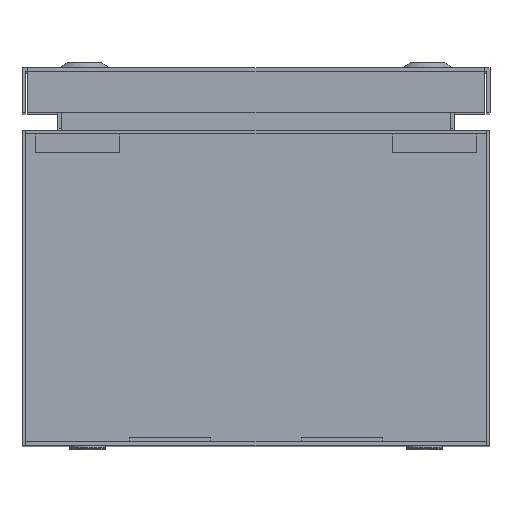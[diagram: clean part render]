
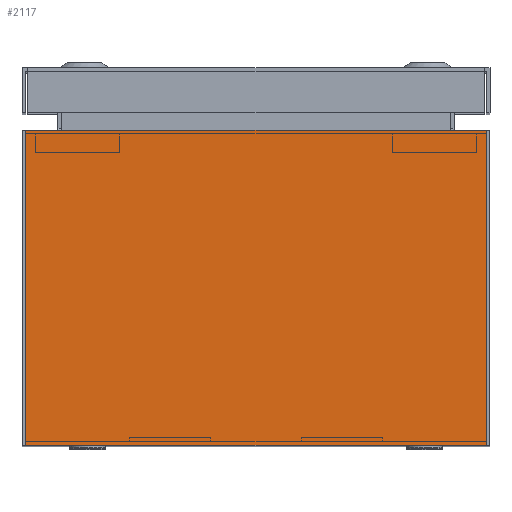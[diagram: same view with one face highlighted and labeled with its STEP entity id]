
A CAD part, top view. The second image highlights one B-rep face of the part: STEP entity #2117.
In plain terms, the highlighted planar face has unit normal (0, 0, 1).
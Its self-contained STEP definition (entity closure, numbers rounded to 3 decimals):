
#404 = VERTEX_POINT('',#405);
#405 = CARTESIAN_POINT('',(73.729,-1.2,150.));
#411 = EDGE_CURVE('',#404,#412,#414,.T.);
#412 = VERTEX_POINT('',#413);
#413 = CARTESIAN_POINT('',(-73.729,-1.2,150.));
#414 = LINE('',#415,#416);
#415 = CARTESIAN_POINT('',(1575.,-1.2,150.));
#416 = VECTOR('',#417,1.);
#417 = DIRECTION('',(-1.,0.,0.));
#1347 = EDGE_CURVE('',#1348,#404,#1350,.T.);
#1348 = VERTEX_POINT('',#1349);
#1349 = CARTESIAN_POINT('',(73.729,99.8,150.));
#1350 = LINE('',#1351,#1352);
#1351 = CARTESIAN_POINT('',(73.729,98.,150.));
#1352 = VECTOR('',#1353,1.);
#1353 = DIRECTION('',(0.,-1.,0.));
#2013 = EDGE_CURVE('',#412,#2014,#2016,.T.);
#2014 = VERTEX_POINT('',#2015);
#2015 = CARTESIAN_POINT('',(-73.729,99.8,150.));
#2016 = LINE('',#2017,#2018);
#2017 = CARTESIAN_POINT('',(-73.729,98.,150.));
#2018 = VECTOR('',#2019,1.);
#2019 = DIRECTION('',(0.,1.,0.));
#2117 = ADVANCED_FACE('',(#2118),#2129,.F.);
#2118 = FACE_BOUND('',#2119,.T.);
#2119 = EDGE_LOOP('',(#2120,#2121,#2122,#2123));
#2120 = ORIENTED_EDGE('',*,*,#2013,.F.);
#2121 = ORIENTED_EDGE('',*,*,#411,.F.);
#2122 = ORIENTED_EDGE('',*,*,#1347,.F.);
#2123 = ORIENTED_EDGE('',*,*,#2124,.T.);
#2124 = EDGE_CURVE('',#1348,#2014,#2125,.T.);
#2125 = LINE('',#2126,#2127);
#2126 = CARTESIAN_POINT('',(1575.,99.8,150.));
#2127 = VECTOR('',#2128,1.);
#2128 = DIRECTION('',(-1.,0.,0.));
#2129 = PLANE('',#2130);
#2130 = AXIS2_PLACEMENT_3D('',#2131,#2132,#2133);
#2131 = CARTESIAN_POINT('',(1575.,98.,150.));
#2132 = DIRECTION('',(0.,0.,-1.));
#2133 = DIRECTION('',(0.,-1.,0.));
